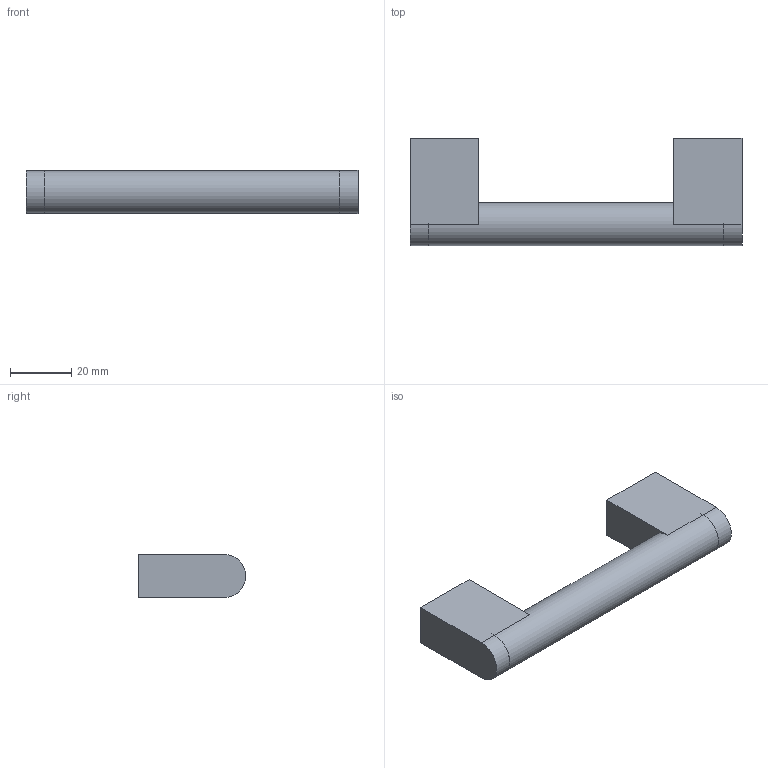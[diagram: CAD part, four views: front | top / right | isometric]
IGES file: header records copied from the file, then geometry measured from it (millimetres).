
Start section: Data from Parasolid IGES Translator 17.0.49, Copyright(c) 2006 Siemens P LM Software. All Rights Reserved.
Global section: file name: 9118858.igs; native system: By Siemens PLM Incorporated; preprocessor: XPlus GENERIC/IGES 17.0.49; author: Noname; organization: Noname; date: 20181120.155241; units: millimetre
Bounding box: 108 x 35 x 14 mm (x, y, z)
Surface area: 10139.3 mm2 (no closed solid volume)
Topology: 0 solids, 0 shells, 21 faces, 82 edges, 78 vertices
Faces by surface type: extrusion 14, revolution 7
